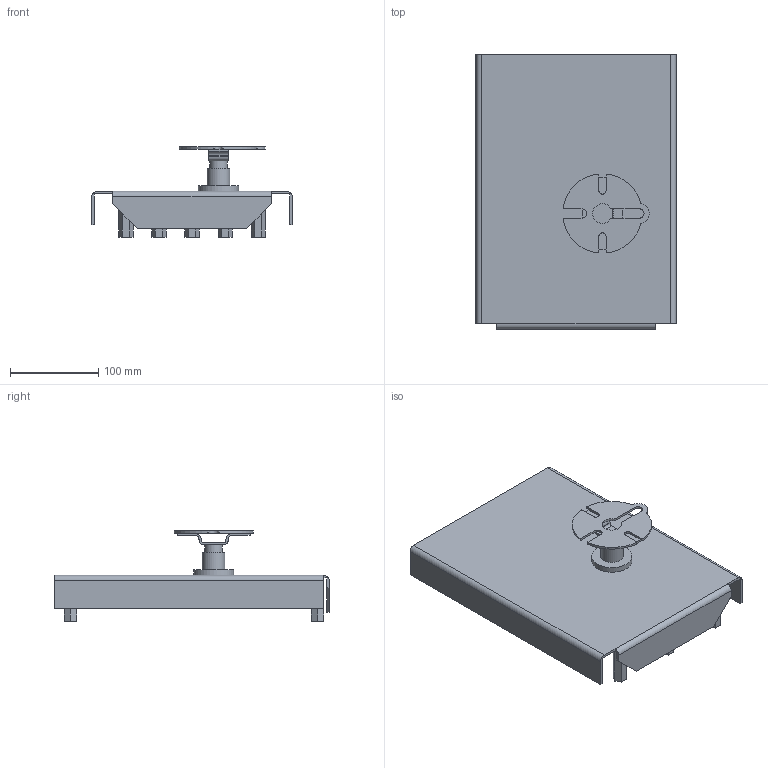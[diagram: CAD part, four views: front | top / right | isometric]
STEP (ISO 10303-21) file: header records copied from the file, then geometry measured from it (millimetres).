
FILE_DESCRIPTION (( 'STEP AP214' ), '1' );
FILE_NAME ('砎魤鍱 懤矐膻灚齕鴇 臍50-41.STEP', '2023-02-03T05:44:14', ( '' ), ( '' ), 'SwSTEP 2.0', 'SolidWorks 2018', '' );
FILE_SCHEMA (( 'AUTOMOTIVE_DESIGN' ));
Length unit declared in the file: millimetre
Products named in the file (1): 砎魤鍱 懤矐膻灚齕鴇 臍50-41
Bounding box: 227 x 311 x 102 mm (x, y, z)
Volume: 918414.8 mm3; surface area: 245737.7 mm2
Topology: 1 solids, 1 shells, 130 faces, 354 edges, 234 vertices
Faces by surface type: plane 96, cylinder 34
Full cylindrical faces by diameter (mm): 20 x1, 25.7 x1, 45.6 x1
Entity records: 5535 total; most frequent: CARTESIAN_POINT 716, ORIENTED_EDGE 702, DIRECTION 681, EDGE_CURVE 351, LINE 283, VECTOR 283, VERTEX_POINT 234, AXIS2_PLACEMENT_3D 199
